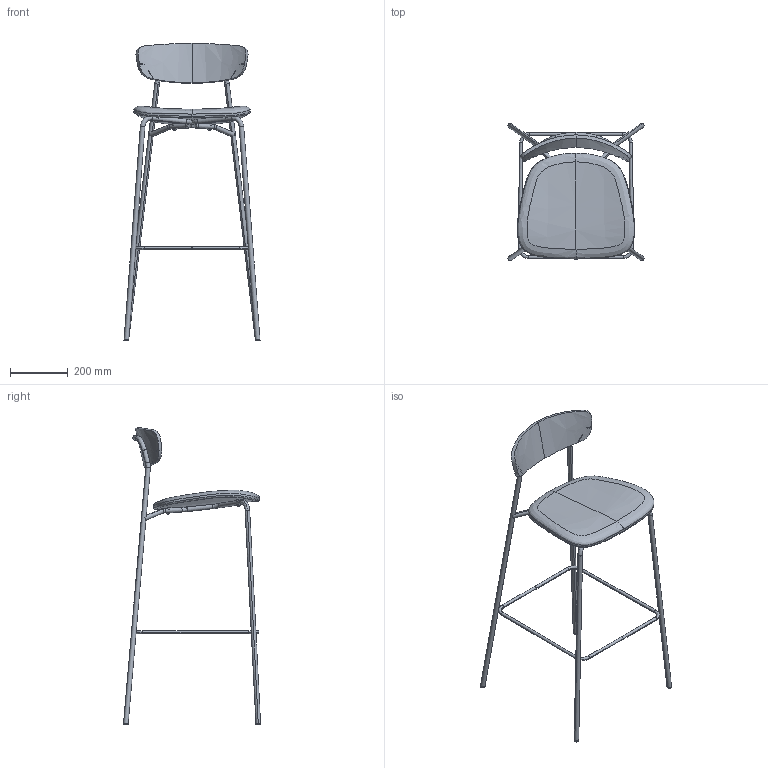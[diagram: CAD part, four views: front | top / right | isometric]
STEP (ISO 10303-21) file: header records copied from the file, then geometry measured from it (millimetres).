
FILE_DESCRIPTION(/* description */ (''),/* implementation_level */ '2;1');
FILE_NAME(/* name */ 'Trivi 128,H780',/* time_stamp */ '2022-01-20T11:27:50+01:00',/* author */ (''),/* organization */ (''),/* preprocessor_version */ 'ST-DEVELOPER v16.5',/* originating_system */ 'Rhino 7.14',/* authorisation */ '');
FILE_SCHEMA (('CONFIG_CONTROL_DESIGN'));
Length unit declared in the file: millimetre
Products named in the file (1): Document
Bounding box: 472.09 x 476.03 x 1030.57 mm (x, y, z)
Volume: 3884846.6 mm3; surface area: 676943.6 mm2
Topology: 12 solids, 22 shells, 194 faces, 417 edges, 254 vertices
Faces by surface type: bspline 68, cylinder 64, plane 62
Entity records: 10196 total; most frequent: CARTESIAN_POINT 7440, ORIENTED_EDGE 792, EDGE_CURVE 414, VERTEX_POINT 248, EDGE_LOOP 196, ADVANCED_FACE 194, FACE_OUTER_BOUND 194, B_SPLINE_CURVE_WITH_KNOTS 183
